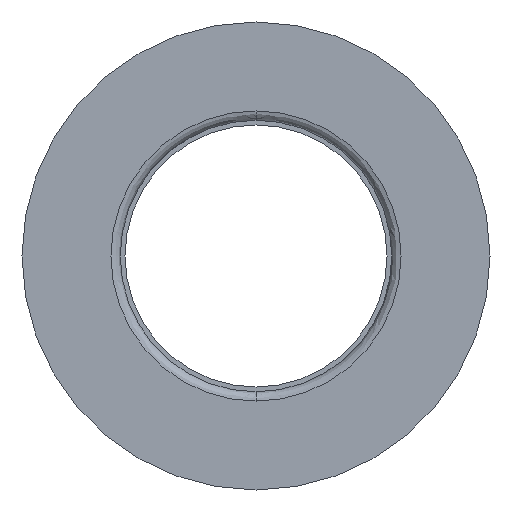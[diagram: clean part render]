
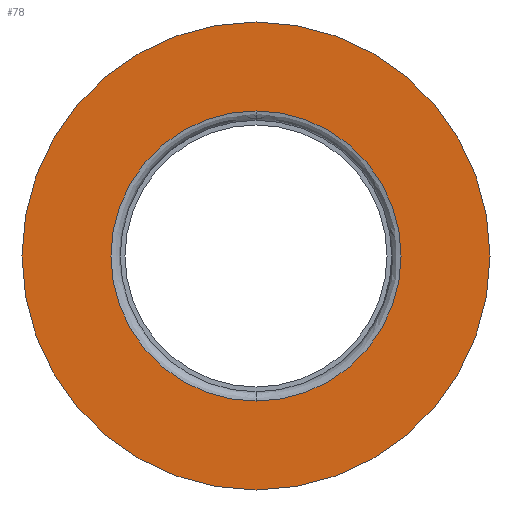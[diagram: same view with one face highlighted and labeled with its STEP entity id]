
A CAD part, left-side view. The second image highlights one B-rep face of the part: STEP entity #78.
In plain terms, the highlighted free-form (B-spline) face has degree [1, 1] with [2, 2] control points.
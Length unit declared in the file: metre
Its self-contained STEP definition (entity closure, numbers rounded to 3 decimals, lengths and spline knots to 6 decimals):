
#78 = ADVANCED_FACE( '', ( #105, #106 ), #107, .T. );
#105 = FACE_BOUND( '', #160, .T. );
#106 = FACE_OUTER_BOUND( '', #161, .T. );
#107 = B_SPLINE_SURFACE_WITH_KNOTS( '', 1, 1, ( ( #162, #163 ), ( #164, #165 ) ), .UNSPECIFIED., .F., .F., .F., ( 2, 2 ), ( 2, 2 ), ( 0., 1. ), ( 0., 1. ), .UNSPECIFIED. );
#160 = EDGE_LOOP( '', ( #339, #340 ) );
#161 = EDGE_LOOP( '', ( #341, #342 ) );
#162 = CARTESIAN_POINT( '', ( -0.04, -0.01265, -0.01265 ) );
#163 = CARTESIAN_POINT( '', ( -0.04, 0.01265, -0.01265 ) );
#164 = CARTESIAN_POINT( '', ( -0.04, -0.01265, 0.01265 ) );
#165 = CARTESIAN_POINT( '', ( -0.04, 0.01265, 0.01265 ) );
#339 = ORIENTED_EDGE( '', *, *, #487, .T. );
#340 = ORIENTED_EDGE( '', *, *, #488, .T. );
#341 = ORIENTED_EDGE( '', *, *, #489, .T. );
#342 = ORIENTED_EDGE( '', *, *, #490, .T. );
#487 = EDGE_CURVE( '', #539, #540, #541, .F. );
#488 = EDGE_CURVE( '', #540, #539, #542, .F. );
#489 = EDGE_CURVE( '', #543, #544, #545, .F. );
#490 = EDGE_CURVE( '', #544, #543, #546, .F. );
#539 = VERTEX_POINT( '', #619 );
#540 = VERTEX_POINT( '', #620 );
#541 = CIRCLE( '', #621, 0.00775 );
#542 = CIRCLE( '', #622, 0.00775 );
#543 = VERTEX_POINT( '', #623 );
#544 = VERTEX_POINT( '', #624 );
#545 = CIRCLE( '', #625, 0.0125 );
#546 = CIRCLE( '', #626, 0.0125 );
#619 = CARTESIAN_POINT( '', ( -0.04, 0., -0.00775 ) );
#620 = CARTESIAN_POINT( '', ( -0.04, 0., 0.00775 ) );
#621 = AXIS2_PLACEMENT_3D( '', #749, #750, #751 );
#622 = AXIS2_PLACEMENT_3D( '', #752, #753, #754 );
#623 = CARTESIAN_POINT( '', ( -0.04, 0., 0.0125 ) );
#624 = CARTESIAN_POINT( '', ( -0.04, 0., -0.0125 ) );
#625 = AXIS2_PLACEMENT_3D( '', #755, #756, #757 );
#626 = AXIS2_PLACEMENT_3D( '', #758, #759, #760 );
#749 = CARTESIAN_POINT( '', ( -0.04, 0., 0. ) );
#750 = DIRECTION( '', ( -1., 0., 0. ) );
#751 = DIRECTION( '', ( 0., 0., 1. ) );
#752 = CARTESIAN_POINT( '', ( -0.04, 0., 0. ) );
#753 = DIRECTION( '', ( -1., 0., 0. ) );
#754 = DIRECTION( '', ( 0., 0., 1. ) );
#755 = CARTESIAN_POINT( '', ( -0.04, 0., 0. ) );
#756 = DIRECTION( '', ( 1., 0., 0. ) );
#757 = DIRECTION( '', ( 0., 0., -1. ) );
#758 = CARTESIAN_POINT( '', ( -0.04, 0., 0. ) );
#759 = DIRECTION( '', ( 1., 0., 0. ) );
#760 = DIRECTION( '', ( 0., 0., -1. ) );
